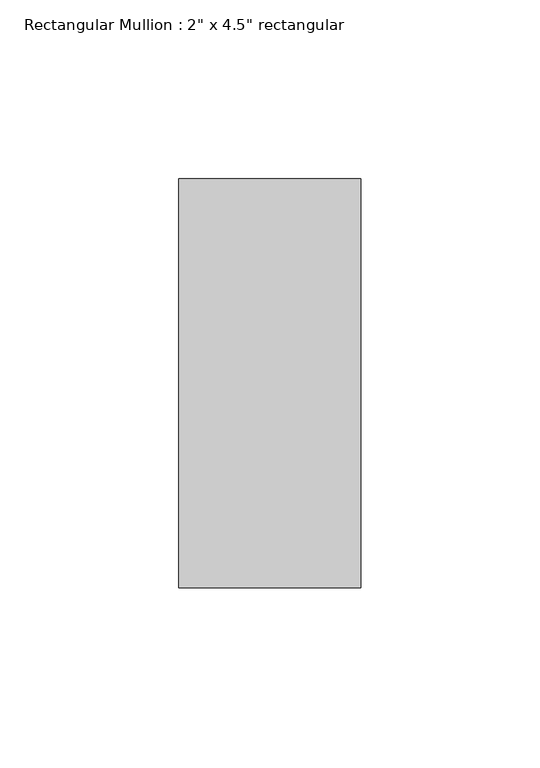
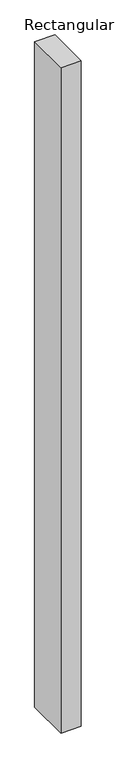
"""IFC4 building model written with IfcOpenShell, lengths in millimetres: member geometry."""

from ifc_helpers import new_model, si_unit, frame, origin, place, context, project, spatial, polyline, outline, extrude, source, transform, mapped, element, save


def member_05e6bac6(model_context):
    return source(origin(), model_context, "Body", "SweptSolid", [
        extrude(outline(polyline([(0.0, 57.15), (0.0, -57.15), (-50.8, -57.15), (-50.8, 57.15), (0.0, 57.15)])), frame((0.0, 0.0, -1778.0), z_axis=(0.0, 0.0, 1.0), x_axis=(1.0, 0.0, 0.0)), (0.0, 0.0, 1.0), 1778.0),
    ])


if __name__ == "__main__":
    model = new_model("IFC4")
    model_context = context("Model", 3, world=origin())
    ifc_project = project(units=[si_unit("LENGTHUNIT", "METRE", prefix="MILLI")], contexts=[model_context])
    site = spatial("IfcSite", under=ifc_project)
    building = spatial("IfcBuilding", under=site)
    placement = place(None, origin())
    member_shape = member_05e6bac6(model_context)
    element("IfcMember", 1, ObjectType="Rectangular Mullion : 2\" x 4.5\" rectangular", at=placement, inside=building, context=model_context, shape_type="MappedRepresentation", body=[
        mapped(member_shape, transform((0.0, 0.0, 0.0), x_axis=(1.0, 0.0, 0.0), y_axis=(0.0, 1.0, 0.0), z_axis=(0.0, 0.0, 1.0))),
    ])
    save(model, "model.ifc")
